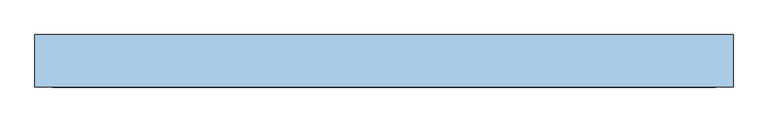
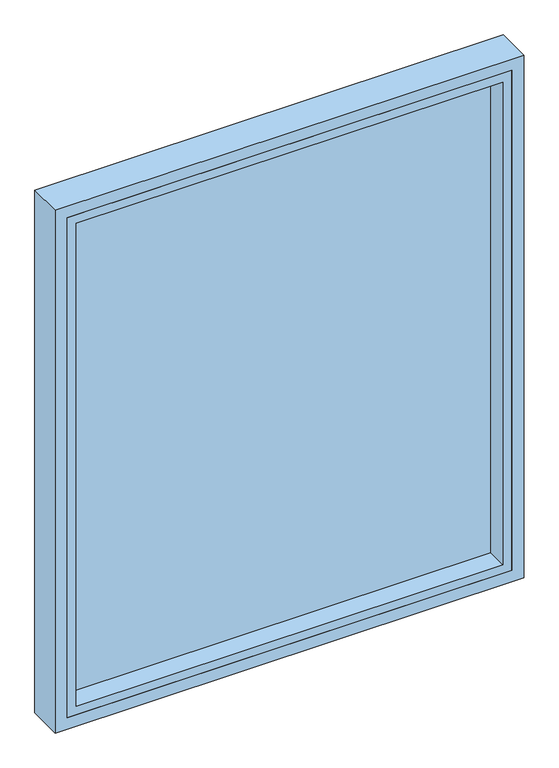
"""IFC4 building model written with IfcOpenShell, lengths in millimetres: window geometry, Reynaers_MasterLine 10_Window_Fixed_Single Vent : Reynaers_MasterLine 10_Window_Fixed_Single Vent."""

from ifc_helpers import new_model, si_unit, frame, origin, place, context, project, spatial, polyline, outline, extrude, faceted_brep, source, transform, mapped, element, save


def window_7635d953(model_context):
    return source(origin(), model_context, "Body", "SolidModel", [
        faceted_brep([(645.0, -87.2, 800.0), (645.0, 9.8, 800.0), (645.0, 9.8, 2320.0), (645.0, -87.2, 2320.0), (585.0, 9.8, 860.0), (585.0, 5.8, 860.0), (585.0, 5.8, 2260.0), (585.0, 9.8, 2260.0), (-645.0, 9.8, 2320.0), (-645.0, -87.2, 2320.0), (-585.0, 5.8, 2260.0), (-585.0, 9.8, 2260.0), (-645.0, 9.8, 800.0), (-645.0, -87.2, 800.0), (-585.0, 5.8, 860.0), (-585.0, 9.8, 860.0), (612.0, -87.2, 833.0), (-612.0, -87.2, 833.0), (-612.0, -87.2, 2287.0), (612.0, -87.2, 2287.0), (612.0, 5.8, 2287.0), (-612.0, 5.8, 2287.0), (-612.0, 5.8, 833.0), (612.0, 5.8, 833.0)], [[[0, 1, 2, 3]], [[4, 5, 6, 7]], [[3, 2, 8, 9]], [[7, 6, 10, 11]], [[9, 8, 12, 13]], [[11, 10, 14, 15]], [[1, 12, 8, 2], [7, 11, 15, 4]], [[13, 12, 1, 0]], [[3, 9, 13, 0], [16, 17, 18, 19]], [[15, 14, 5, 4]], [[20, 19, 18, 21]], [[21, 18, 17, 22]], [[22, 17, 16, 23]], [[23, 16, 19, 20]], [[21, 22, 23, 20], [6, 5, 14, 10]]]),
        extrude(outline(polyline([(2287.0, -612.0), (833.0, -612.0), (833.0, 612.0), (2287.0, 612.0), (2287.0, -612.0)]), holes=[polyline([(2262.0, 587.0), (858.0, 587.0), (858.0, -587.0), (2262.0, -587.0), (2262.0, 587.0)])]), frame((0.0, -87.2, 0.0), z_axis=(0.0, 1.0, 0.0), x_axis=(0.0, 0.0, 1.0)), (0.0, 0.0, 1.0), 57.0),
        extrude(outline(polyline([(604.0, -25.2), (-604.0, -25.2), (-604.0, 1.8), (604.0, 1.8), (604.0, -25.2)])), frame((0.0, 0.0, 841.0), z_axis=(0.0, 0.0, 1.0), x_axis=(1.0, 0.0, 0.0)), (0.0, 0.0, 1.0), 1438.0),
    ])


if __name__ == "__main__":
    model = new_model("IFC4")
    model_context = context("Model", 3, world=origin())
    ifc_project = project(units=[si_unit("LENGTHUNIT", "METRE", prefix="MILLI")], contexts=[model_context])
    site = spatial("IfcSite", under=ifc_project)
    building = spatial("IfcBuilding", under=site)
    placement = place(None, origin())
    window_shape = window_7635d953(model_context)
    element("IfcWindow", 1, ObjectType="Reynaers_MasterLine 10_Window_Fixed_Single Vent : Reynaers_MasterLine 10_Window_Fixed_Single Vent", at=placement, inside=building, context=model_context, shape_type="MappedRepresentation", body=[
        mapped(window_shape, transform((0.0, 0.0, 0.0), x_axis=(1.0, 0.0, 0.0), y_axis=(0.0, 1.0, 0.0), z_axis=(0.0, 0.0, 1.0))),
    ])
    save(model, "model.ifc")
